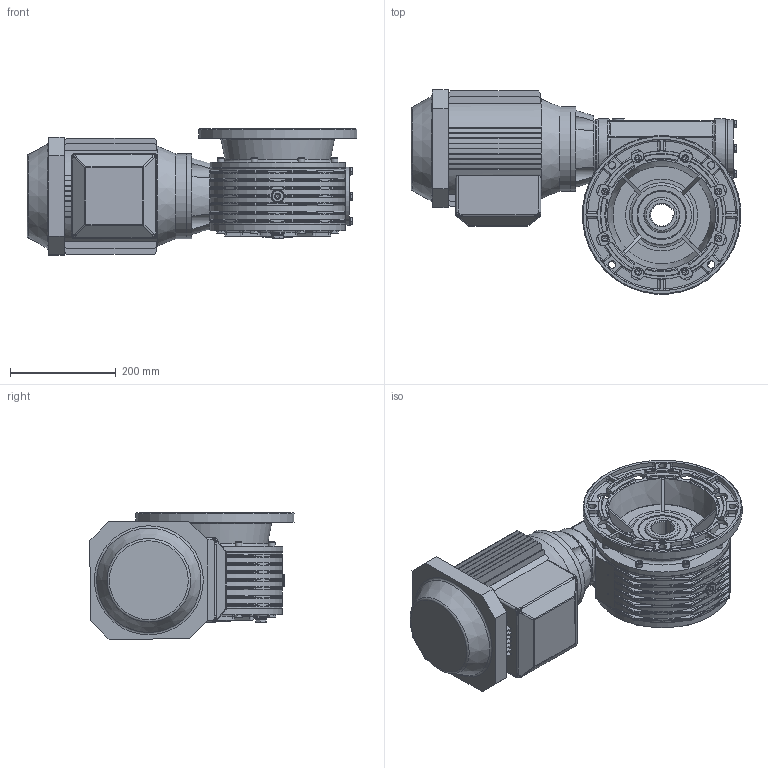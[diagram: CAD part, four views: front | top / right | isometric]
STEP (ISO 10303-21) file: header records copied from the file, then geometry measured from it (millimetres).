
FILE_DESCRIPTION((''),'2;1');
FILE_NAME('Y:\Archivi Inventor\Prog_01\GRAND_60\FIGURINI\MRV60 sito\112M\MRV60_F1_112M_B14.stp','2013-02-08T14:34:38',('tech3'),(''),'Autodesk Inventor 2013','Autodesk Inventor 2013','');
FILE_SCHEMA(('AUTOMOTIVE_DESIGN { 1 0 10303 214 1 1 1 1 }'));
Length unit declared in the file: millimetre
Products named in the file (20): MRV60_100L_112M_B14; MRV60_FIG; 0106001.A0 figurino; 0106009; UNI 5739 M8 x 20; figurino corona; PARAOLIO 65x90x10; 0106028; 0106029; UNI 5739 M8 x 25; Tappo3_8 GAS; Guarnizione 3_8 GAS; Tappo 3_8 GAS_esagn_incsst; DIN EN ISO 4762 M8 x 16; 0106002.A0 figurino; DIN EN ISO 4762 M8 x 20; 0106003.A0 figurino; UNI 8839 A 8; 0106006; motori B14 112
Assembly tree (46 placements, depth 3):
  MRV60_100L_112M_B14
    MRV60_FIG
      0106001.A0 figurino
      0106009
      UNI 5739 M8 x 20  x4
      figurino corona
      PARAOLIO 65x90x10  x2
      0106028
      0106029  x2
      UNI 5739 M8 x 25  x8
      Tappo3_8 GAS
      Guarnizione 3_8 GAS  x2
      Tappo 3_8 GAS_esagn_incsst  x2
      DIN EN ISO 4762 M8 x 16  x4
      0106002.A0 figurino
      DIN EN ISO 4762 M8 x 20  x8
      0106003.A0 figurino
      UNI 8839 A 8  x4
    0106006
    motori B14 112
Bounding box: 622.53 x 385.73 x 238.65 mm (x, y, z)
Volume: 18983985.6 mm3; surface area: 1525438.1 mm2
Topology: 45 solids, 49 shells, 1900 faces, 4709 edges, 2881 vertices
Faces by surface type: plane 824, cylinder 551, bspline 193, cone 170, torus 140, sphere 22
Full cylindrical faces by diameter (mm): 2 x2, 6.647 x28, 8 x26, 8.5 x40, 8.75 x4, 9 x4, 11.63 x12, 13 x12, 13.046 x1, 14 x4, 14.95 x3, 16.3 x2, 16.5 x2, 22 x5, 24 x8, 25 x2, 28 x1, 42 x1, 65 x2, 70 x1, 72.881 x2, 80 x5, 83.5 x2, 90 x5, 109 x1, 109.5 x1, 110 x6, 114 x2, 114.4 x1, 120 x1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
Entity records: 55207 total; most frequent: CARTESIAN_POINT 19402, DIRECTION 7229, ORIENTED_EDGE 7006, EDGE_CURVE 3503, AXIS2_PLACEMENT_3D 2856, VERTEX_POINT 2299, EDGE_LOOP 1864, VECTOR 1517
